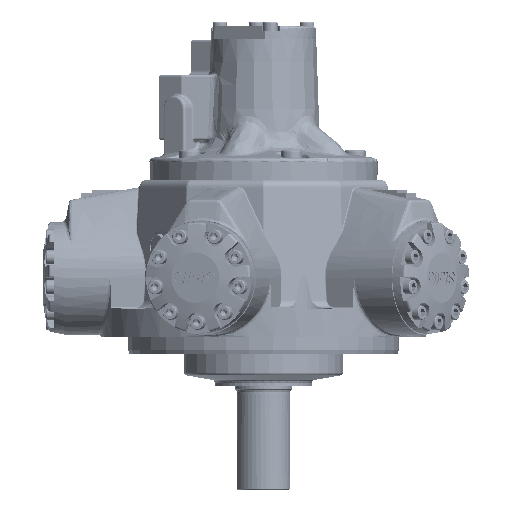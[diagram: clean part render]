
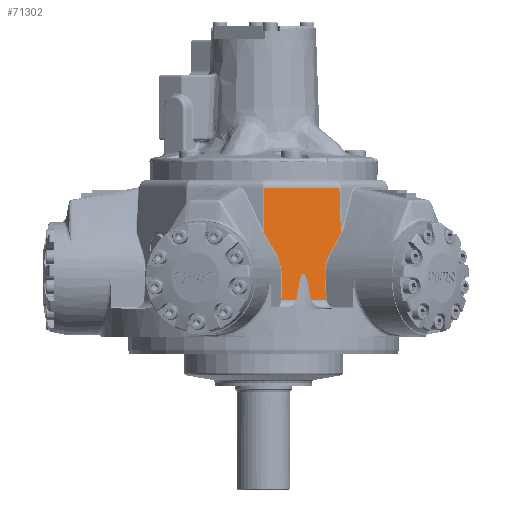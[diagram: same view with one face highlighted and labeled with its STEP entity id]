
A CAD part, left-side view. The second image highlights one B-rep face of the part: STEP entity #71302.
In plain terms, the highlighted planar face has unit normal (-0.95, -0.309, 0.052).
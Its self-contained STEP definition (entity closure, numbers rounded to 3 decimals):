
#61173=CARTESIAN_POINT('',(-147.772,-0.98,120.302));
#61174=VERTEX_POINT('',#61173);
#61182=CARTESIAN_POINT('',(-144.968,-0.98,171.186));
#61183=VERTEX_POINT('',#61182);
#61184=CARTESIAN_POINT('',(-147.772,-0.98,120.302));
#61185=DIRECTION('',(0.055,0.,0.998));
#61186=VECTOR('',#61185,50.962);
#61187=LINE('',#61184,#61186);
#61188=EDGE_CURVE('',#61174,#61183,#61187,.T.);
#71166=CARTESIAN_POINT('',(-120.126,-86.066,120.302));
#71167=VERTEX_POINT('',#71166);
#71176=CARTESIAN_POINT('',(-117.858,-84.418,171.186));
#71177=VERTEX_POINT('',#71176);
#71185=CARTESIAN_POINT('',(-117.858,-84.418,171.186));
#71186=DIRECTION('',(-0.045,-0.032,-0.998));
#71187=VECTOR('',#71186,50.962);
#71188=LINE('',#71185,#71187);
#71189=EDGE_CURVE('',#71177,#71167,#71188,.T.);
#71194=CARTESIAN_POINT('',(-137.636,-44.721,46.339));
#71195=DIRECTION('',(-0.95,-0.309,0.052));
#71196=DIRECTION('',(-0.05,-0.016,-0.999));
#71197=AXIS2_PLACEMENT_3D('',#71194,#71195,#71196);
#71198=PLANE('',#71197);
#71199=CARTESIAN_POINT('',(-140.294,-36.54,46.339));
#71200=VERTEX_POINT('',#71199);
#71201=CARTESIAN_POINT('',(-134.978,-52.902,46.339));
#71202=VERTEX_POINT('',#71201);
#71203=CARTESIAN_POINT('',(-159.961,-51.974,-401.562));
#71204=DIRECTION('',(0.95,0.309,-0.052));
#71205=DIRECTION('',(0.05,0.016,0.999));
#71206=AXIS2_PLACEMENT_3D('',#71203,#71204,#71205);
#71207=ELLIPSE('',#71206,477.683,25.);
#71208=EDGE_CURVE('',#71200,#71202,#71207,.T.);
#71209=ORIENTED_EDGE('',*,*,#71208,.T.);
#71210=CARTESIAN_POINT('',(-129.6,-69.454,46.339));
#71211=VERTEX_POINT('',#71210);
#71212=CARTESIAN_POINT('',(-134.978,-52.902,46.339));
#71213=DIRECTION('',(0.309,-0.951,0.0));
#71214=VECTOR('',#71213,17.404);
#71215=LINE('',#71212,#71214);
#71216=EDGE_CURVE('',#71202,#71211,#71215,.T.);
#71217=ORIENTED_EDGE('',*,*,#71216,.T.);
#71218=CARTESIAN_POINT('',(-128.659,-68.158,71.054));
#71219=VERTEX_POINT('',#71218);
#71220=CARTESIAN_POINT('',(-128.659,-68.158,71.054));
#71221=DIRECTION('',(-0.038,-0.052,-0.998));
#71222=VECTOR('',#71221,24.766);
#71223=LINE('',#71220,#71222);
#71224=EDGE_CURVE('',#71219,#71211,#71223,.T.);
#71225=ORIENTED_EDGE('',*,*,#71224,.F.);
#71226=CARTESIAN_POINT('',(-123.849,-77.299,104.433));
#71227=VERTEX_POINT('',#71226);
#71228=CARTESIAN_POINT('',(-103.919,-144.3,71.054));
#71229=DIRECTION('',(-0.95,-0.309,0.052));
#71230=DIRECTION('',(-0.305,0.95,0.072));
#71231=AXIS2_PLACEMENT_3D('',#71228,#71229,#71230);
#71232=ELLIPSE('',#71231,80.17,64.77);
#71233=EDGE_CURVE('',#71227,#71219,#71232,.T.);
#71234=ORIENTED_EDGE('',*,*,#71233,.F.);
#71235=CARTESIAN_POINT('',(-123.817,-77.375,104.56));
#71236=VERTEX_POINT('',#71235);
#71237=CARTESIAN_POINT('',(-123.817,-77.375,104.56));
#71238=CARTESIAN_POINT('',(-123.828,-77.352,104.517));
#71239=CARTESIAN_POINT('',(-123.838,-77.326,104.475));
#71240=CARTESIAN_POINT('',(-123.849,-77.299,104.433));
#71241=B_SPLINE_CURVE_WITH_KNOTS('',3,(#71237,#71238,#71239,#71240),.UNSPECIFIED.,.F.,.U.,(4,4),(-0.015,0.0),.UNSPECIFIED.);
#71242=EDGE_CURVE('',#71236,#71227,#71241,.T.);
#71243=ORIENTED_EDGE('',*,*,#71242,.F.);
#71244=CARTESIAN_POINT('',(-120.126,-86.066,120.302));
#71245=CARTESIAN_POINT('',(-121.365,-83.139,115.073));
#71246=CARTESIAN_POINT('',(-122.596,-80.243,109.826));
#71247=CARTESIAN_POINT('',(-123.817,-77.375,104.56));
#71248=B_SPLINE_CURVE_WITH_KNOTS('',3,(#71244,#71245,#71246,#71247),.UNSPECIFIED.,.F.,.U.,(4,4),(-1.836,0.0),.UNSPECIFIED.);
#71249=EDGE_CURVE('',#71167,#71236,#71248,.T.);
#71250=ORIENTED_EDGE('',*,*,#71249,.F.);
#71251=ORIENTED_EDGE('',*,*,#71189,.F.);
#71252=CARTESIAN_POINT('',(-117.858,-84.418,171.186));
#71253=DIRECTION('',(-0.309,0.951,0.0));
#71254=VECTOR('',#71253,87.732);
#71255=LINE('',#71252,#71254);
#71256=EDGE_CURVE('',#71177,#61183,#71255,.T.);
#71257=ORIENTED_EDGE('',*,*,#71256,.T.);
#71258=ORIENTED_EDGE('',*,*,#61188,.F.);
#71259=CARTESIAN_POINT('',(-145.651,-10.18,104.56));
#71260=VERTEX_POINT('',#71259);
#71261=CARTESIAN_POINT('',(-145.651,-10.18,104.56));
#71262=CARTESIAN_POINT('',(-146.348,-7.142,109.826));
#71263=CARTESIAN_POINT('',(-147.055,-4.076,115.073));
#71264=CARTESIAN_POINT('',(-147.772,-0.98,120.302));
#71265=B_SPLINE_CURVE_WITH_KNOTS('',3,(#71261,#71262,#71263,#71264),.UNSPECIFIED.,.F.,.U.,(4,4),(-1.836,0.0),.UNSPECIFIED.);
#71266=EDGE_CURVE('',#71260,#61174,#71265,.T.);
#71267=ORIENTED_EDGE('',*,*,#71266,.F.);
#71268=CARTESIAN_POINT('',(-145.631,-10.26,104.433));
#71269=VERTEX_POINT('',#71268);
#71270=CARTESIAN_POINT('',(-145.631,-10.26,104.433));
#71271=CARTESIAN_POINT('',(-145.638,-10.232,104.475));
#71272=CARTESIAN_POINT('',(-145.645,-10.205,104.517));
#71273=CARTESIAN_POINT('',(-145.651,-10.18,104.56));
#71274=B_SPLINE_CURVE_WITH_KNOTS('',3,(#71270,#71271,#71272,#71273),.UNSPECIFIED.,.F.,.U.,(4,4),(-0.015,0.0),.UNSPECIFIED.);
#71275=EDGE_CURVE('',#71269,#71260,#71274,.T.);
#71276=ORIENTED_EDGE('',*,*,#71275,.F.);
#71277=CARTESIAN_POINT('',(-144.15,-20.482,71.054));
#71278=VERTEX_POINT('',#71277);
#71279=CARTESIAN_POINT('',(-168.889,55.659,71.054));
#71280=DIRECTION('',(-0.95,-0.309,0.052));
#71281=DIRECTION('',(0.312,-0.947,0.072));
#71282=AXIS2_PLACEMENT_3D('',#71279,#71280,#71281);
#71283=ELLIPSE('',#71282,80.17,64.77);
#71284=EDGE_CURVE('',#71278,#71269,#71283,.T.);
#71285=ORIENTED_EDGE('',*,*,#71284,.F.);
#71286=CARTESIAN_POINT('',(-145.672,-19.988,46.339));
#71287=VERTEX_POINT('',#71286);
#71288=CARTESIAN_POINT('',(-145.672,-19.988,46.339));
#71289=DIRECTION('',(0.061,-0.02,0.998));
#71290=VECTOR('',#71289,24.766);
#71291=LINE('',#71288,#71290);
#71292=EDGE_CURVE('',#71287,#71278,#71291,.T.);
#71293=ORIENTED_EDGE('',*,*,#71292,.F.);
#71294=CARTESIAN_POINT('',(-145.672,-19.988,46.339));
#71295=DIRECTION('',(0.309,-0.951,0.0));
#71296=VECTOR('',#71295,17.404);
#71297=LINE('',#71294,#71296);
#71298=EDGE_CURVE('',#71287,#71200,#71297,.T.);
#71299=ORIENTED_EDGE('',*,*,#71298,.T.);
#71300=EDGE_LOOP('',(#71209,#71217,#71225,#71234,#71243,#71250,#71251,#71257,#71258,#71267,#71276,#71285,#71293,#71299));
#71301=FACE_OUTER_BOUND('',#71300,.T.);
#71302=ADVANCED_FACE('',(#71301),#71198,.T.);
